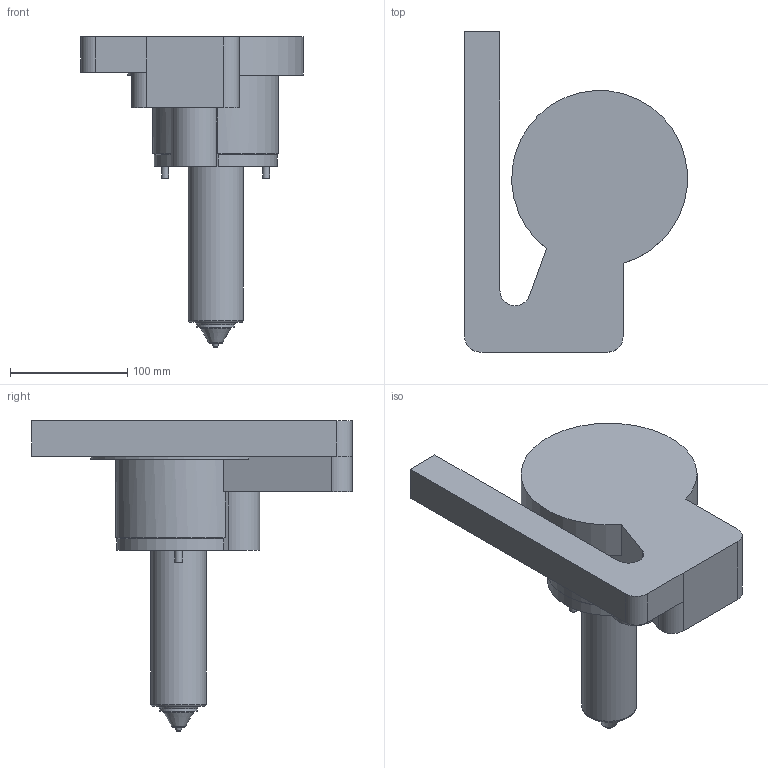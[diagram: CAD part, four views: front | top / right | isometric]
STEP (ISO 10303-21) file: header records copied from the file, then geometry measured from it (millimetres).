
FILE_DESCRIPTION( ( 'STEP AP214' ), '1' );
FILE_NAME( 'S:/PROIECTE_YUDO_2009_dupa_1.07.2009/PROIECTE YUDO 3D 01.07.2009/SAS/YUEU09-SAS32VC232_4/YUEU09-SAS32VC232_cutout.step', '2009-07-02T11:56:28', ( ' ' ), ( ' ' ), 'XStep 1.0', ' ', ' ' );
FILE_SCHEMA( ( 'automotive_design' ) );
Length unit declared in the file: millimetre
Products named in the file (1): 1
Bounding box: 189.74 x 273 x 264.5 mm (x, y, z)
Volume: 2229544.3 mm3; surface area: 158079.9 mm2
Topology: 1 solids, 1 shells, 40 faces, 90 edges, 58 vertices
Faces by surface type: plane 20, cylinder 14, cone 4, torus 2
Full cylindrical faces by diameter (mm): 4 x1, 6 x2, 26 x1, 32 x1, 47 x1
Entity records: 1404 total; most frequent: DIRECTION 194, CARTESIAN_POINT 184, ORIENTED_EDGE 158, EDGE_CURVE 79, AXIS2_PLACEMENT_3D 76, VERTEX_POINT 58, EDGE_LOOP 57, FACE_OUTER_BOUND 48
